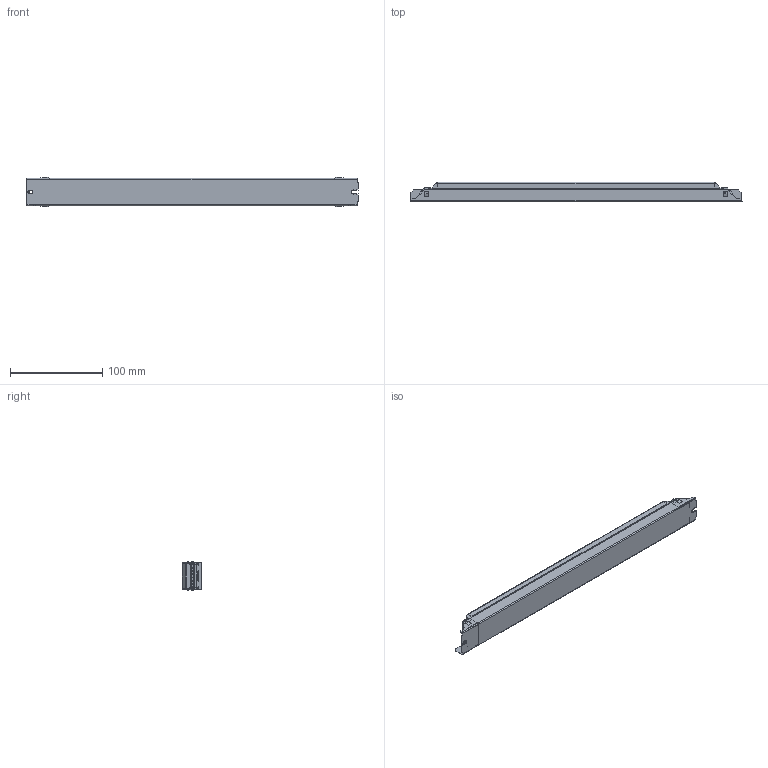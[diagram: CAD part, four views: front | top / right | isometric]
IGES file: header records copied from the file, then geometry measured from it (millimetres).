
Start section: SolidWorks IGES file using analytic representation for surfaces
Global section: file name: D:\ECTR_TEMP\OLQ-batchEngine\queue\temp\4188596swm000.igs; native system: SolidWorks 2017; preprocessor: SolidWorks 2017; author: SYSTEM; date: 200204.083702; units: millimetre
Bounding box: 359 x 21 x 31.39 mm (x, y, z)
Surface area: 42026.6 mm2 (no closed solid volume)
Topology: 0 solids, 0 shells, 764 faces, 6626 edges, 6626 vertices
Faces by surface type: bspline 474, revolution 290
